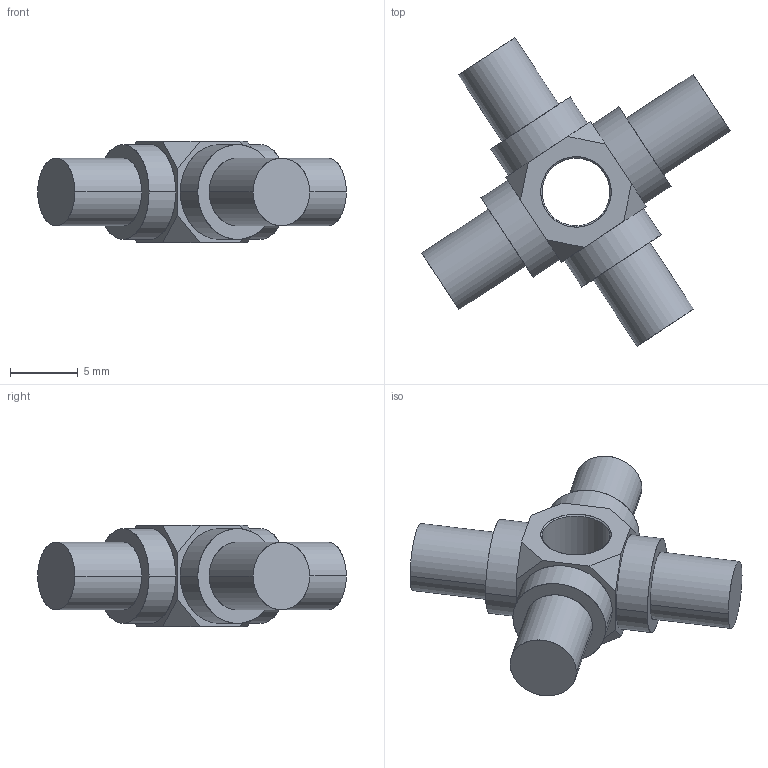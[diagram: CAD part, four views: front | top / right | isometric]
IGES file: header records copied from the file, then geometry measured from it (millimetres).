
Start section: SolidWorks IGES file using analytic representation for surfaces
Global section: file name: C:\Users\SELUHAA\Desktop\Work items\545792\IGES\IRB360_X-1130-STD-4D_rev03_IGES_J\IRB360_X-1130-STD-4D_rev03_LC_CAD.IGS; native system: SolidWorks 2022; preprocessor: SolidWorks 2022; author: SELUHAA; date: 231204.085612; units: millimetre
Bounding box: 22.8 x 22.8 x 7.5 mm (x, y, z)
Surface area: 971.4 mm2 (no closed solid volume)
Topology: 0 solids, 0 shells, 44 faces, 736 edges, 736 vertices
Faces by surface type: revolution 22, bspline 22
